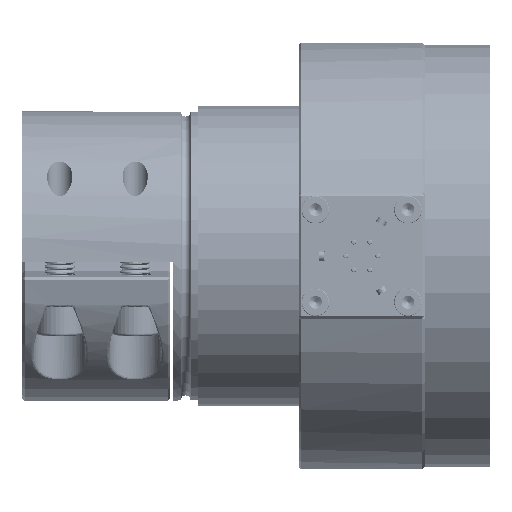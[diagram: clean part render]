
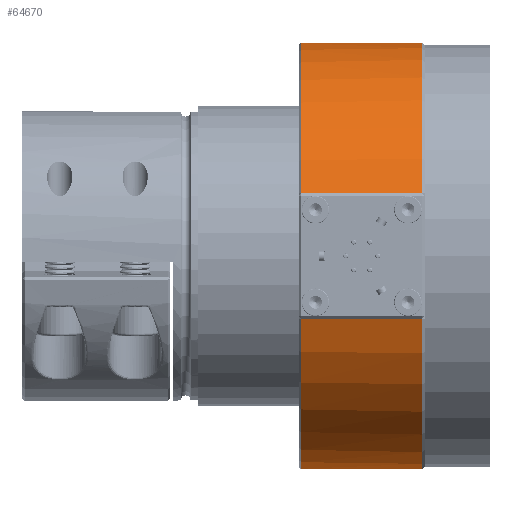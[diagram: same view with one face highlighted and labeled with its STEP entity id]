
A CAD part, left-side view. The second image highlights one B-rep face of the part: STEP entity #64670.
In plain terms, the highlighted cylindrical face has radius 42.5 mm (diameter 85 mm), a partial arc.
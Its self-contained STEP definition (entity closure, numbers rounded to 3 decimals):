
#2184 = AXIS2_PLACEMENT_3D ( 'NONE', #67513, #110699, #43159 ) ;
#4296 = EDGE_CURVE ( 'NONE', #14732, #98219, #74026, .T. ) ;
#5992 = CARTESIAN_POINT ( 'NONE',  ( 0., 30.737, 0. ) ) ;
#9567 = DIRECTION ( 'NONE',  ( -1., 0., 0. ) ) ;
#10190 = FACE_OUTER_BOUND ( 'NONE', #42154, .T. ) ;
#14732 = VERTEX_POINT ( 'NONE', #110117 ) ;
#14776 = CIRCLE ( 'NONE', #43785, 42.5 ) ;
#20308 = VERTEX_POINT ( 'NONE', #66731 ) ;
#24191 = VERTEX_POINT ( 'NONE', #93611 ) ;
#25496 = ORIENTED_EDGE ( 'NONE', *, *, #36460, .T. ) ;
#26099 = CARTESIAN_POINT ( 'NONE',  ( 0., 28., 0. ) ) ;
#32301 = DIRECTION ( 'NONE',  ( 0., -1., 0. ) ) ;
#32945 = CARTESIAN_POINT ( 'NONE',  ( -40.62, 4., 12.501 ) ) ;
#34720 = DIRECTION ( 'NONE',  ( 0., -1., 0. ) ) ;
#35946 = LINE ( 'NONE', #83771, #76233 ) ;
#35970 = VECTOR ( 'NONE', #53736, 1000. ) ;
#36460 = EDGE_CURVE ( 'NONE', #24191, #14732, #44050, .T. ) ;
#41075 = CARTESIAN_POINT ( 'NONE',  ( 0., 28., 0. ) ) ;
#42154 = EDGE_LOOP ( 'NONE', ( #81709, #108564, #25496, #62145, #86132 ) ) ;
#43159 = DIRECTION ( 'NONE',  ( 1., 0., 0. ) ) ;
#43785 = AXIS2_PLACEMENT_3D ( 'NONE', #41075, #49709, #109748 ) ;
#44050 = LINE ( 'NONE', #86427, #35970 ) ;
#49709 = DIRECTION ( 'NONE',  ( 0., -1., 0. ) ) ;
#53563 = EDGE_CURVE ( 'NONE', #98219, #20308, #14776, .T. ) ;
#53736 = DIRECTION ( 'NONE',  ( 0., 1., 0. ) ) ;
#54064 = EDGE_CURVE ( 'NONE', #83086, #24191, #85873, .T. ) ;
#62145 = ORIENTED_EDGE ( 'NONE', *, *, #4296, .T. ) ;
#64670 = ADVANCED_FACE ( 'NONE', ( #10190 ), #70598, .T. ) ;
#65661 = DIRECTION ( 'NONE',  ( 0., 1., 0. ) ) ;
#66731 = CARTESIAN_POINT ( 'NONE',  ( -40.62, 28., 12.501 ) ) ;
#67513 = CARTESIAN_POINT ( 'NONE',  ( 0., 4., 0. ) ) ;
#68818 = AXIS2_PLACEMENT_3D ( 'NONE', #26099, #34720, #9567 ) ;
#70598 = CYLINDRICAL_SURFACE ( 'NONE', #72681, 42.5 ) ;
#72681 = AXIS2_PLACEMENT_3D ( 'NONE', #5992, #65661, #92000 ) ;
#73110 = EDGE_CURVE ( 'NONE', #20308, #83086, #35946, .T. ) ;
#74026 = CIRCLE ( 'NONE', #68818, 42.5 ) ;
#76233 = VECTOR ( 'NONE', #32301, 1000. ) ;
#81709 = ORIENTED_EDGE ( 'NONE', *, *, #73110, .T. ) ;
#83086 = VERTEX_POINT ( 'NONE', #32945 ) ;
#83771 = CARTESIAN_POINT ( 'NONE',  ( -40.62, 30.737, 12.501 ) ) ;
#85873 = CIRCLE ( 'NONE', #2184, 42.5 ) ;
#86132 = ORIENTED_EDGE ( 'NONE', *, *, #53563, .T. ) ;
#86427 = CARTESIAN_POINT ( 'NONE',  ( -40.62, 30.737, -12.501 ) ) ;
#92000 = DIRECTION ( 'NONE',  ( -1., 0., 0. ) ) ;
#93611 = CARTESIAN_POINT ( 'NONE',  ( -40.62, 4., -12.501 ) ) ;
#96965 = CARTESIAN_POINT ( 'NONE',  ( 42.5, 28., 0. ) ) ;
#98219 = VERTEX_POINT ( 'NONE', #96965 ) ;
#108564 = ORIENTED_EDGE ( 'NONE', *, *, #54064, .T. ) ;
#109748 = DIRECTION ( 'NONE',  ( -1., 0., 0. ) ) ;
#110117 = CARTESIAN_POINT ( 'NONE',  ( -40.62, 28., -12.501 ) ) ;
#110699 = DIRECTION ( 'NONE',  ( 0., 1., 0. ) ) ;
